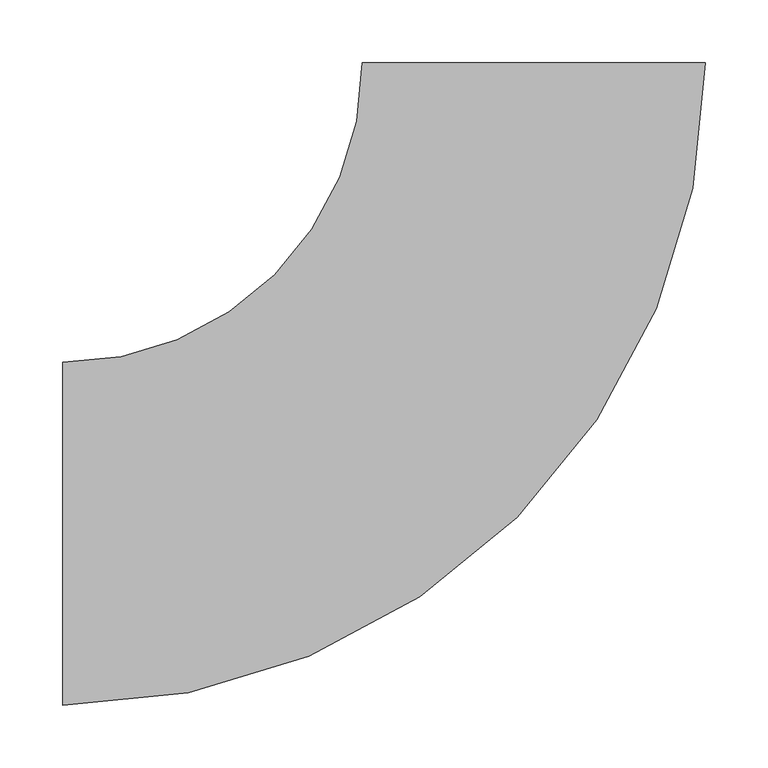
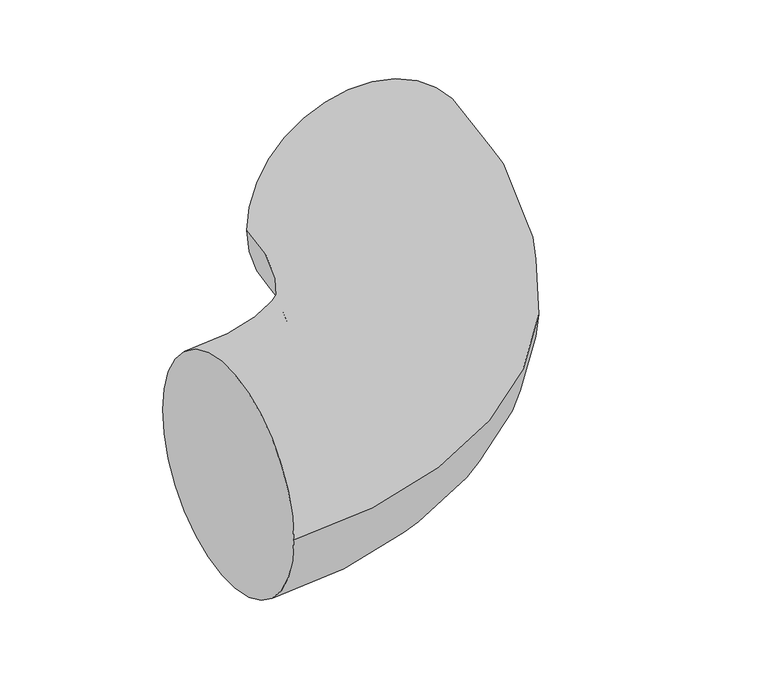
"""IFC4 building model written with IfcOpenShell, lengths in millimetres: pipe fitting geometry, ADSK_ДетальСтальнаяСварная_Отвод_ГОСТ17375-2001 : Исполнение 2."""

from ifc_helpers import new_model, si_unit, point, frame, origin, place, context, project, spatial, circle_curve, ellipse_curve, trimmed, source, transform, mapped, element, save
from ifc_brep_helpers import plane_surface, revolved_surface, advanced_brep


def pipe_fitting_a4b05bee(model_context):
    return source(origin(), model_context, "Body", "AdvancedBrep", [
        advanced_brep(
        [(-375.0, -136.5, 0.0), (-375.0, 136.5, 0.0), (136.5, 375.0, 0.0), (-136.5, 375.0, 0.0)],
        [
            (0, 1, circle_curve(frame((-375.0, 0.0, 0.0), z_axis=(-1.0, 0.0, 0.0), x_axis=(0.0, 1.0, 0.0)), 136.5)),
            (1, 0, circle_curve(frame((-375.0, 0.0, 0.0), z_axis=(-1.0, 0.0, 0.0), x_axis=(0.0, 1.0, 0.0)), 136.5)),
            (2, 3, circle_curve(frame((0.0, 375.0, 0.0), z_axis=(0.0, 1.0, 0.0), x_axis=(-1.0, 0.0, 0.0)), 136.5)),
            (3, 2, circle_curve(frame((0.0, 375.0, 0.0), z_axis=(0.0, 1.0, 0.0), x_axis=(-1.0, 0.0, 0.0)), 136.5)),
            (3, 1, circle_curve(frame((-375.0, 375.0, 0.0), z_axis=(0.0, 0.0, -1.0), x_axis=(0.0, -1.0, 0.0)), 238.5)),
            (0, 2, circle_curve(frame((-375.0, 375.0, 0.0), z_axis=(0.0, 0.0, 1.0), x_axis=(0.0, -1.0, 0.0)), 511.5)),
        ],
        [
            plane_surface(frame((-375.0, 0.0, 0.0), z_axis=(-1.0, 0.0, 0.0), x_axis=(0.0, 0.0, 1.0))),
            plane_surface(frame((0.0, 375.0, 0.0), z_axis=(0.0, 1.0, 0.0), x_axis=(0.0, 0.0, 1.0))),
            revolved_surface(trimmed(ellipse_curve(frame((-375.0, 0.0, 0.0), z_axis=(-1.0, 0.0, 0.0), x_axis=(0.0, 1.0, 0.0)), 136.5, 136.5), [point((-375.0, -136.5, 0.0))], [point((-375.0, 136.5, 0.0))], True, "CARTESIAN"), (-375.0, 375.0, 0.0), (0.0, 0.0, 1.0)),
            revolved_surface(trimmed(ellipse_curve(frame((-375.0, 0.0, 0.0), z_axis=(-1.0, 0.0, 0.0), x_axis=(0.0, 1.0, 0.0)), 136.5, 136.5), [point((-375.0, 136.5, 0.0))], [point((-375.0, -136.5, 0.0))], True, "CARTESIAN"), (-375.0, 375.0, 0.0), (0.0, 0.0, 1.0)),
        ],
        [
            (0, [[1, 2]]),
            (1, [[3, 4]]),
            (2, [[5, -1, 6, -4]]),
            (3, [[-6, -2, -5, -3]]),
        ],
    ),
    ])


if __name__ == "__main__":
    model = new_model("IFC4")
    model_context = context("Model", 3, world=origin())
    ifc_project = project(units=[si_unit("LENGTHUNIT", "METRE", prefix="MILLI")], contexts=[model_context])
    site = spatial("IfcSite", under=ifc_project)
    building = spatial("IfcBuilding", under=site)
    placement = place(None, origin())
    pipe_fitting_shape = pipe_fitting_a4b05bee(model_context)
    element("IfcPipeFitting", 1, ObjectType="ADSK_ДетальСтальнаяСварная_Отвод_ГОСТ17375-2001 : Исполнение 2", at=placement, inside=building, context=model_context, shape_type="MappedRepresentation", body=[
        mapped(pipe_fitting_shape, transform((0.0, 0.0, 0.0), x_axis=(1.0, 0.0, 0.0), y_axis=(0.0, 1.0, 0.0), z_axis=(0.0, 0.0, 1.0))),
    ])
    save(model, "model.ifc")
